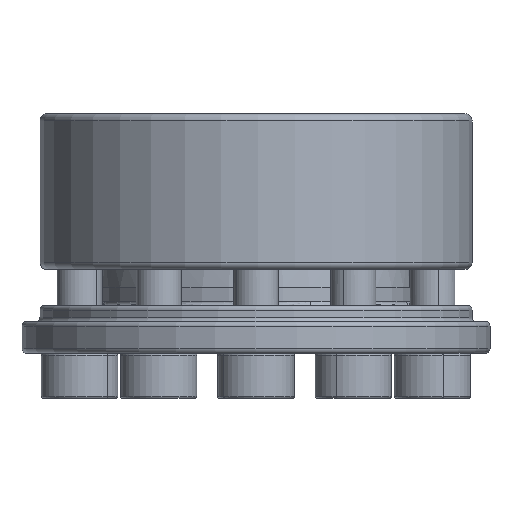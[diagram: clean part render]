
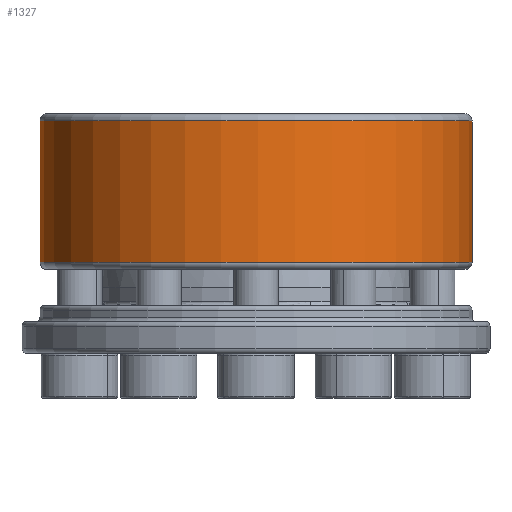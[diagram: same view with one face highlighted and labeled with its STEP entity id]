
A CAD part, front view. The second image highlights one B-rep face of the part: STEP entity #1327.
In plain terms, the highlighted cylindrical face has radius 24 mm (diameter 48 mm), a partial arc.
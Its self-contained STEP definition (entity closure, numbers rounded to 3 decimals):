
#240 = EDGE_LOOP ( 'NONE', ( #4678, #4679, #4680, #4681 ) ) ;
#1327 = ADVANCED_FACE ( 'NONE', ( #2900 ), #2898, .T. ) ;
#1568 = EDGE_CURVE ( 'NONE', #4611, #6956, #3258, .T. ) ;
#1569 = EDGE_CURVE ( 'NONE', #6956, #4610, #3263, .T. ) ;
#1570 = EDGE_CURVE ( 'NONE', #6958, #4610, #3266, .T. ) ;
#1571 = EDGE_CURVE ( 'NONE', #6958, #4611, #3265, .T. ) ;
#2115 = AXIS2_PLACEMENT_3D ( 'NONE', #2749, #2747, #2745 ) ;
#2322 = AXIS2_PLACEMENT_3D ( 'NONE', #4182, #4183, #4184 ) ;
#2323 = AXIS2_PLACEMENT_3D ( 'NONE', #4186, #4187, #4188 ) ;
#2745 = DIRECTION ( 'NONE',  ( 1., 0., 0. ) ) ;
#2747 = DIRECTION ( 'NONE',  ( 0., 0., 1. ) ) ;
#2749 = CARTESIAN_POINT ( 'NONE',  ( 0., 0., 1.5 ) ) ;
#2898 = CYLINDRICAL_SURFACE ( 'NONE', #2115, 24. ) ;
#2900 = FACE_OUTER_BOUND ( 'NONE', #240, .T. ) ;
#3258 = CIRCLE ( 'NONE', #2322, 24. ) ;
#3263 = LINE ( 'NONE', #4181, #3267 ) ;
#3265 = LINE ( 'NONE', #4185, #3270 ) ;
#3266 = CIRCLE ( 'NONE', #2323, 24. ) ;
#3267 = VECTOR ( 'NONE', #4179, 1000. ) ;
#3270 = VECTOR ( 'NONE', #4180, 1000. ) ;
#4179 = DIRECTION ( 'NONE',  ( 0., 0., 1. ) ) ;
#4180 = DIRECTION ( 'NONE',  ( 0., 0., -1. ) ) ;
#4181 = CARTESIAN_POINT ( 'NONE',  ( 24., 0., 1.5 ) ) ;
#4182 = CARTESIAN_POINT ( 'NONE',  ( 0., 0., -16.5 ) ) ;
#4183 = DIRECTION ( 'NONE',  ( 0., 0., 1. ) ) ;
#4184 = DIRECTION ( 'NONE',  ( 1., 0., 0. ) ) ;
#4185 = CARTESIAN_POINT ( 'NONE',  ( -23.995, -0.5, 1.5 ) ) ;
#4186 = CARTESIAN_POINT ( 'NONE',  ( 0., 0., -0.8 ) ) ;
#4187 = DIRECTION ( 'NONE',  ( 0., 0., 1. ) ) ;
#4188 = DIRECTION ( 'NONE',  ( 1., 0., 0. ) ) ;
#4610 = VERTEX_POINT ( 'NONE', #10584 ) ;
#4611 = VERTEX_POINT ( 'NONE', #10585 ) ;
#4678 = ORIENTED_EDGE ( 'NONE', *, *, #1568, .T. ) ;
#4679 = ORIENTED_EDGE ( 'NONE', *, *, #1569, .T. ) ;
#4680 = ORIENTED_EDGE ( 'NONE', *, *, #1570, .F. ) ;
#4681 = ORIENTED_EDGE ( 'NONE', *, *, #1571, .T. ) ;
#6956 = VERTEX_POINT ( 'NONE', #10751 ) ;
#6958 = VERTEX_POINT ( 'NONE', #10752 ) ;
#10584 = CARTESIAN_POINT ( 'NONE',  ( 24., 0., -0.8 ) ) ;
#10585 = CARTESIAN_POINT ( 'NONE',  ( -23.995, -0.5, -16.5 ) ) ;
#10751 = CARTESIAN_POINT ( 'NONE',  ( 24., 0., -16.5 ) ) ;
#10752 = CARTESIAN_POINT ( 'NONE',  ( -23.995, -0.5, -0.8 ) ) ;
